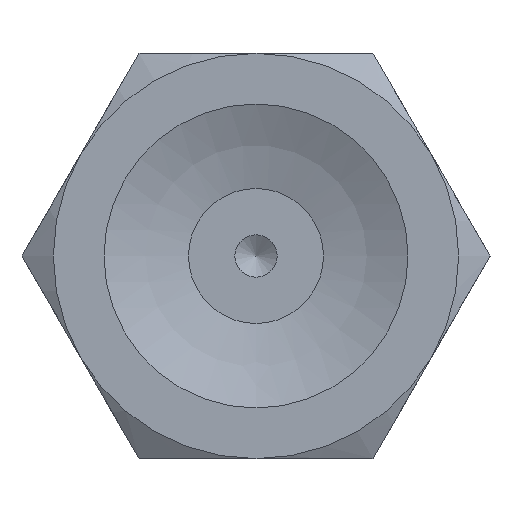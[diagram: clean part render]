
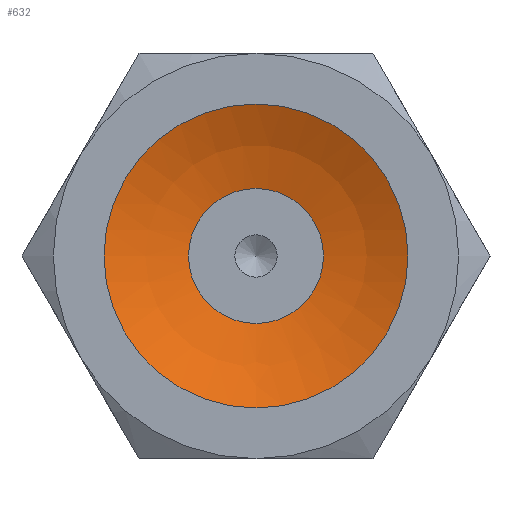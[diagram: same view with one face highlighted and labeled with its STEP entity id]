
A CAD part, front view. The second image highlights one B-rep face of the part: STEP entity #632.
In plain terms, the highlighted spherical face has radius 10.203 mm.
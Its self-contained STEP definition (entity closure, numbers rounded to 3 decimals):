
#632=ADVANCED_FACE('',(#946,#947),#948,.F.);
#946=FACE_OUTER_BOUND('',#1309,.T.);
#947=FACE_OUTER_BOUND('',#1310,.T.);
#948=SPHERICAL_SURFACE('',#1311,10.203);
#1309=EDGE_LOOP('',(#2175));
#1310=EDGE_LOOP('',(#2176));
#1311=AXIS2_PLACEMENT_3D('',#2177,#2178,#2179);
#2175=ORIENTED_EDGE('',*,*,#2558,.T.);
#2176=ORIENTED_EDGE('',*,*,#2549,.F.);
#2177=CARTESIAN_POINT('',(0.,-9.157,0.));
#2178=DIRECTION('',(0.0,-1.0,0.));
#2179=DIRECTION('',(1.0,0.0,0.0));
#2549=EDGE_CURVE('',#2944,#2944,#2945,.T.);
#2558=EDGE_CURVE('',#2962,#2962,#2963,.T.);
#2944=VERTEX_POINT('',#3978);
#2945=CIRCLE('',#3979,2.);
#2962=VERTEX_POINT('',#3996);
#2963=CIRCLE('',#3997,4.5);
#3978=CARTESIAN_POINT('',(0.0,0.848,-2.));
#3979=AXIS2_PLACEMENT_3D('',#4369,#4370,#4371);
#3996=CARTESIAN_POINT('',(0.0,0.,-4.5));
#3997=AXIS2_PLACEMENT_3D('',#4396,#4397,#4398);
#4369=CARTESIAN_POINT('',(0.0,0.848,0.0));
#4370=DIRECTION('',(0.0,-1.0,0.));
#4371=DIRECTION('',(0.0,0.,-1.0));
#4396=CARTESIAN_POINT('',(0.0,0.,0.0));
#4397=DIRECTION('',(0.0,-1.0,0.));
#4398=DIRECTION('',(0.0,0.,-1.0));
